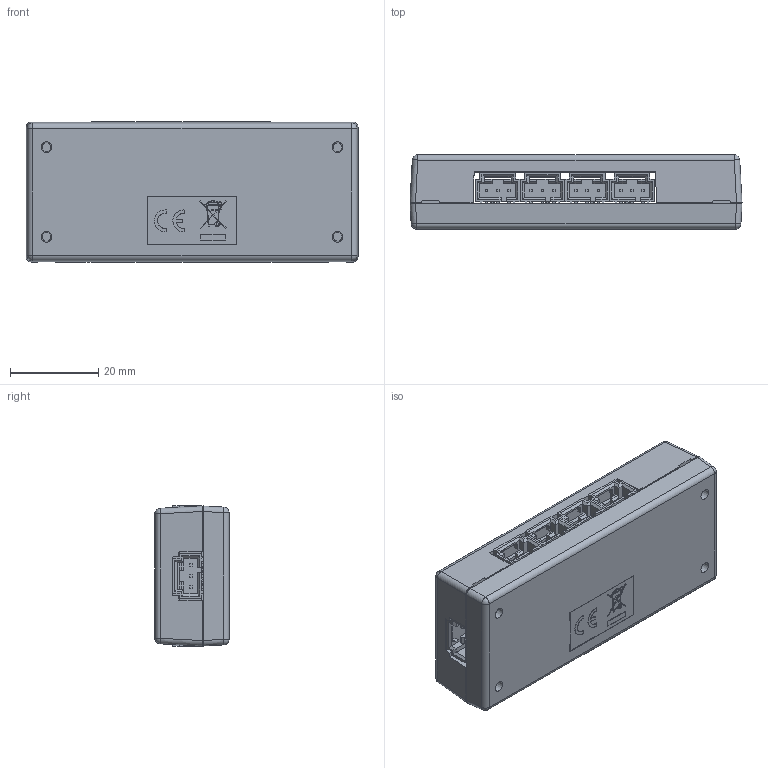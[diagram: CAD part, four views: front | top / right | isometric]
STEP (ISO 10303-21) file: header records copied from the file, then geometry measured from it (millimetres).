
FILE_DESCRIPTION(/* description */ ('Alibre Inc.'),/* implementation_level */ '2;1');
FILE_NAME(/* name */ 'export0',/* time_stamp */ '2018-08-08T09:39:34-06:00',/* author */ (''),/* organization */ (''),/* preprocessor_version */ 'ST-DEVELOPER v17',/* originating_system */ 'Alibre',/* authorisation */ '');
FILE_SCHEMA (('CONFIG_CONTROL_DESIGN'));
Length unit declared in the file: millimetre
Products named in the file (111): ID_1; ID_2; ID_3; ID_4; ID_5; ID_6; ID_7; ID_8; ID_9; ID_10; ID_11; ID_12; ID_13; ID_14; ID_15; ID_16; ID_17; ID_18; ID_19; ID_20; ID_21; ID_22; ID_23; ID_24; ID_25; ID_26; ID_27; ID_28; ID_29
Bounding box: 75.33 x 16.83 x 31.85 mm (x, y, z)
Volume: 17865.5 mm3; surface area: 27192.7 mm2
Topology: 169 solids, 169 shells, 3149 faces, 8066 edges, 5286 vertices
Faces by surface type: plane 2906, cylinder 196, bspline 27, cone 12, sphere 8
Full cylindrical faces by diameter (mm): 0.6 x1, 0.965 x27, 3.099 x4, 3.175 x4
Entity records: 45026 total; most frequent: CARTESIAN_POINT 7411, ORIENTED_EDGE 5050, DIRECTION 4466, EDGE_CURVE 2525, VECTOR 2052, LINE 2052, VERTEX_POINT 1666, AXIS2_PLACEMENT_3D 1556
